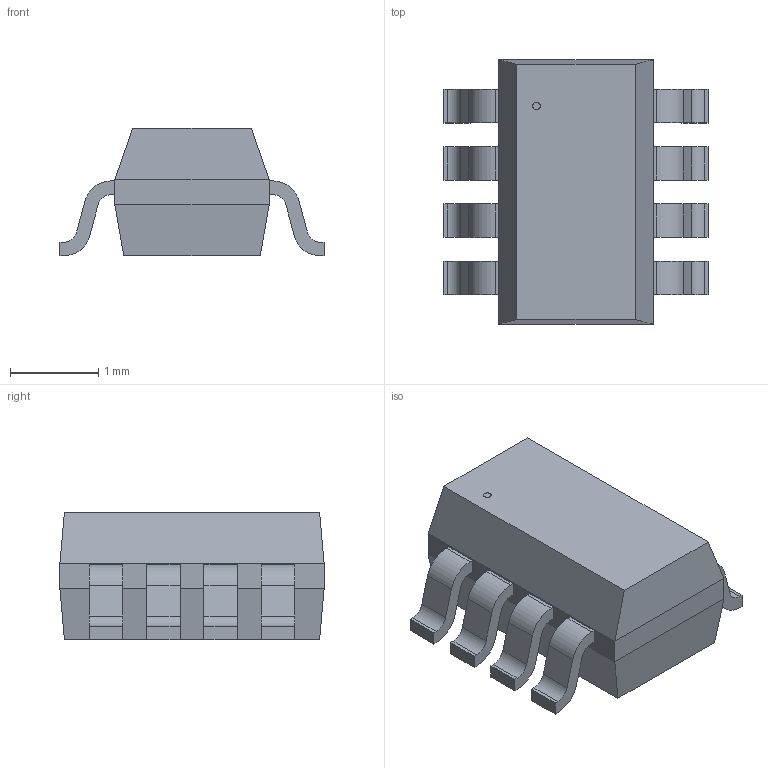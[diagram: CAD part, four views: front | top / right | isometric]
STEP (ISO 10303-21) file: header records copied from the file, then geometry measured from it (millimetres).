
FILE_DESCRIPTION(('STEP AP214'),'1');
FILE_NAME('DCN8','2020-09-16T10:56:51',(''),(''),'','','');
FILE_SCHEMA(('AUTOMOTIVE_DESIGN'));
Length unit declared in the file: millimetre
Products named in the file (1): product
Bounding box: 3 x 3 x 1.45 mm (x, y, z)
Volume: 7.5 mm3; surface area: 31.9 mm2
Topology: 10 solids, 10 shells, 129 faces, 319 edges, 210 vertices
Faces by surface type: plane 96, cylinder 33
Full cylindrical faces by diameter (mm): 0.088 x1
Entity records: 3672 total; most frequent: DIRECTION 646, ORIENTED_EDGE 636, CARTESIAN_POINT 375, EDGE_CURVE 318, LINE 252, VECTOR 252, VERTEX_POINT 210, AXIS2_PLACEMENT_3D 197
